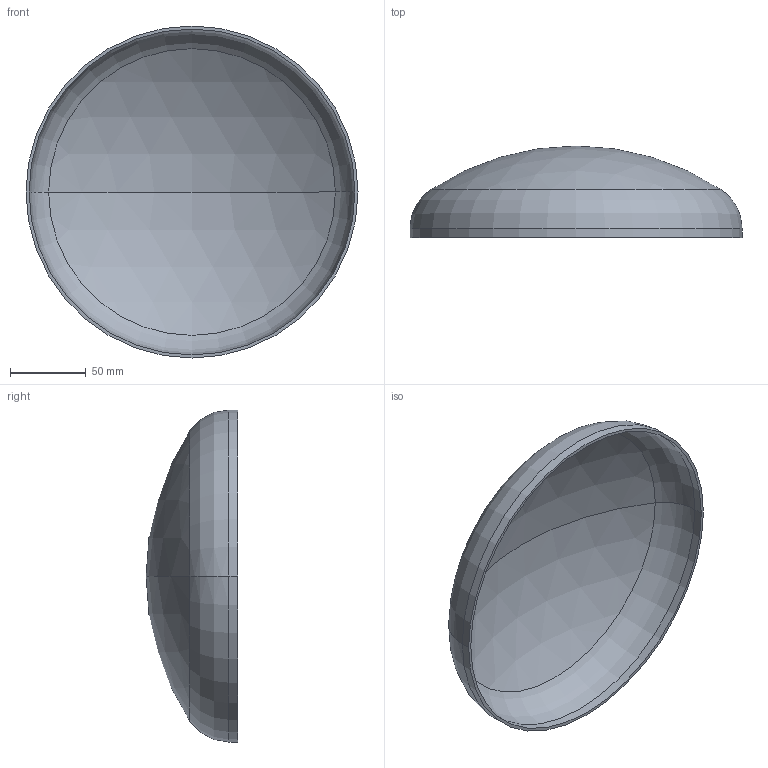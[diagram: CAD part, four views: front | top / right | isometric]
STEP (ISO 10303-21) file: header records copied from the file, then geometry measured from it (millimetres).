
FILE_DESCRIPTION (( 'STEP AP203' ), '1' );
FILE_NAME ('3D_R365_319.1x2_173372050.STEP', '2024-07-16T06:56:10', ( '' ), ( '' ), 'SwSTEP 2.0', 'SolidWorks 2024', '' );
FILE_SCHEMA (( 'CONFIG_CONTROL_DESIGN' ));
Length unit declared in the file: millimetre
Products named in the file (1): 3D_R365_319.1x2_173372050
Bounding box: 219.1 x 60.5 x 219.1 mm (x, y, z)
Volume: 108624 mm3; surface area: 109996.4 mm2
Topology: 1 solids, 1 shells, 13 faces, 24 edges, 14 vertices
Faces by surface type: sphere 4, torus 4, cylinder 4, plane 1
Entity records: 407 total; most frequent: DIRECTION 72, CARTESIAN_POINT 52, ORIENTED_EDGE 48, AXIS2_PLACEMENT_3D 34, EDGE_CURVE 24, CIRCLE 20, VERTEX_POINT 14, EDGE_LOOP 14
